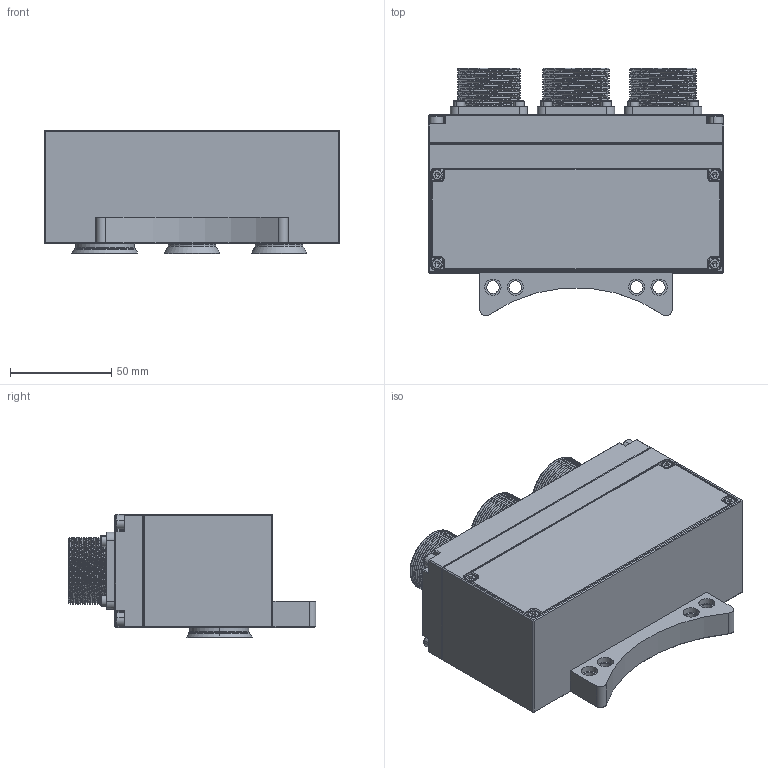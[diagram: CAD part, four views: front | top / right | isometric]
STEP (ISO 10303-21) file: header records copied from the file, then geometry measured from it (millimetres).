
FILE_DESCRIPTION (( 'STEP AP203' ), '1' );
FILE_NAME ('发那科.STEP', '2024-08-28T09:07:25', ( 'Windows 用户' ), ( 'Organization' ), 'SwSTEP 2.0', 'SolidWorks 2018', '' );
FILE_SCHEMA (( 'CONFIG_CONTROL_DESIGN' ));
Products named in the file (1): 楷饒褪
Bounding box: 146 x 122.18 x 61.1 mm (x, y, z)
Volume: 683491.7 mm3; surface area: 89924.1 mm2
Topology: 1 solids, 1 shells, 3252 faces, 7421 edges, 4349 vertices
Faces by surface type: plane 2085, cylinder 703, cone 298, torus 108, bspline 42, sphere 16
Entity records: 108042 total; most frequent: CARTESIAN_POINT 38450, ORIENTED_EDGE 14714, DIRECTION 13956, EDGE_CURVE 7357, AXIS2_PLACEMENT_3D 4992, VERTEX_POINT 4349, VECTOR 3972, LINE 3972
